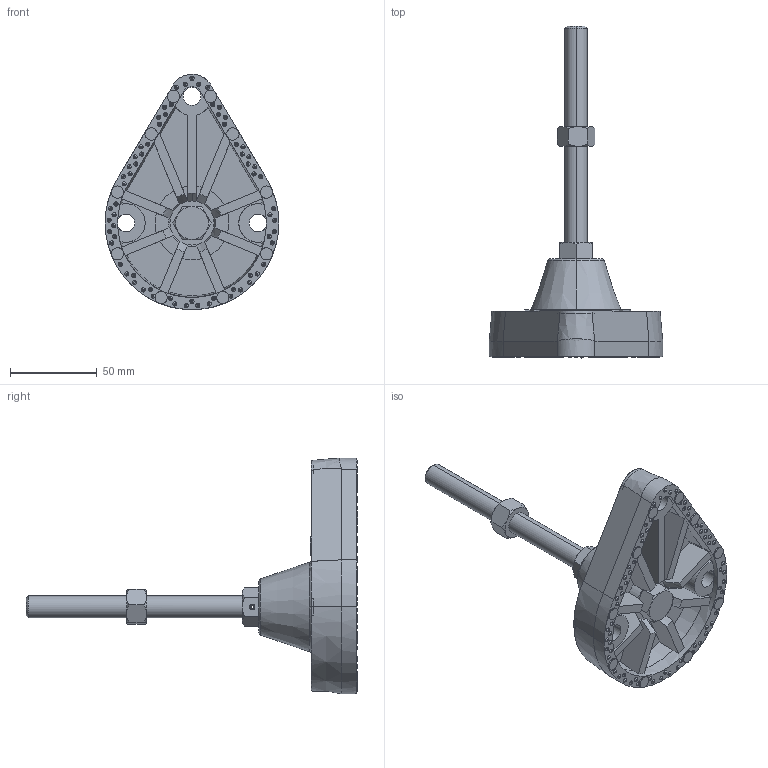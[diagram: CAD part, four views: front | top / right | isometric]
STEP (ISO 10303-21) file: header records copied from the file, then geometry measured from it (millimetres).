
FILE_DESCRIPTION (( 'STEP AP214' ), '1' );
FILE_NAME ('H020072100.STEP', '2014-02-11T15:56:21', ( 'Eric_Werenskjold' ), ( '' ), 'SwSTEP 2.0', 'SolidWorks 2014', '' );
FILE_SCHEMA (( 'AUTOMOTIVE_DESIGN' ));
Length unit declared in the file: inch
Products named in the file (7): Hex Nut_Derived Ansi Inch Standard_HNUT 0.5000-13-D-N; Spring Pin Slotted_Derived Ansi Inch Standard_SPS 0.125x0.75; Flat Washer Type A Narrow_Derived Ansi Inch Standard_Preferred Narrow FW 0.5; Hex Bolt_Derived Ansi Inch Standard_HBOLT 0.5000-13x7x7-N; H0200921; H020072100
Assembly tree (6 placements, depth 2):
  H020072100
    H0200921
    Hex Bolt_Derived Ansi Inch Standard_HBOLT 0.5000-13x7x7-N
    Flat Washer Type A Narrow_Derived Ansi Inch Standard_Preferred Narrow FW 0.5
    Hex Nut_Derived Ansi Inch Standard_HNUT 0.5000-13-D-N
    Spring Pin Slotted_Derived Ansi Inch Standard_SPS 0.125x0.75
    Hex Nut_Derived Ansi Inch Standard_HNUT 0.5000-13-D-N
Bounding box: 100.04 x 191.33 x 135.76 mm (x, y, z)
Volume: 194137.1 mm3; surface area: 65772.1 mm2
Topology: 6 solids, 6 shells, 905 faces, 2344 edges, 1530 vertices
Faces by surface type: plane 515, cone 197, cylinder 183, bspline 6, torus 4
Entity records: 29179 total; most frequent: CARTESIAN_POINT 6218, DIRECTION 4810, ORIENTED_EDGE 4688, EDGE_CURVE 2344, AXIS2_PLACEMENT_3D 1686, VERTEX_POINT 1530, VECTOR 1438, LINE 1438
